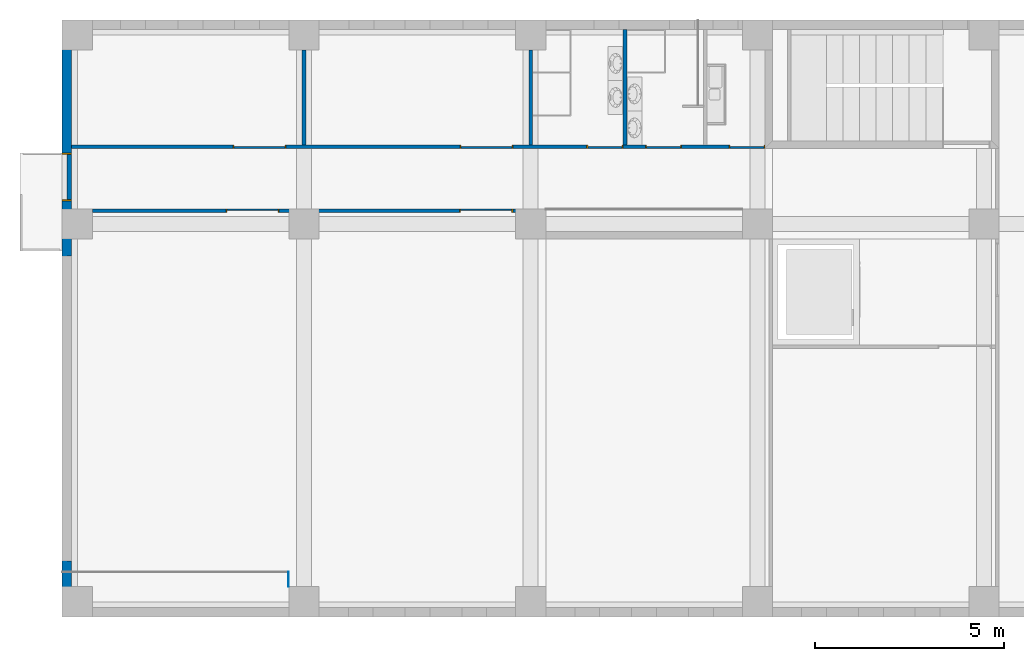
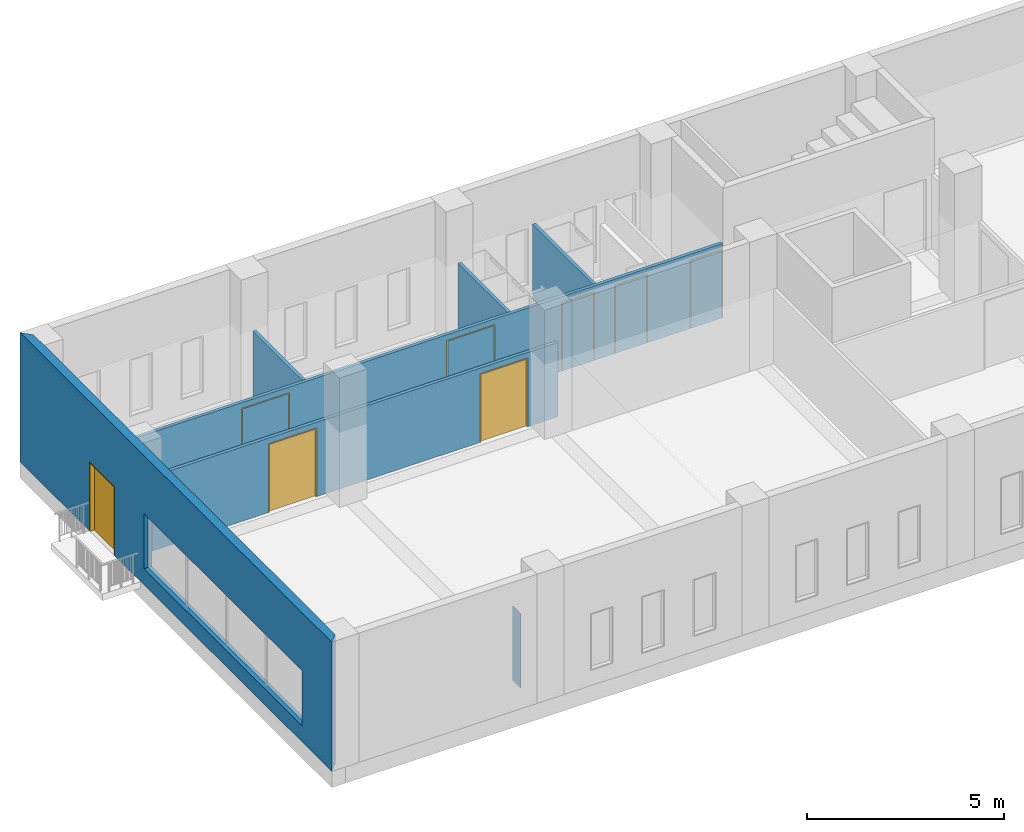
# One storey, part 2 of 14: 8 doors, 7 walls, 9 openings.
"""IFC2X3 building model written with IfcOpenShell, lengths in millimetres."""

from ifc_helpers import new_model, entity, si_unit, converted_unit, direction, frame, origin_with_axes, origin_2d_with_axis, place, context, project, spatial, polyline, rectangle, outline, extrude, open_shell, surface_model, material, layer, layer_set, layer_usage, type_object, element, fill, save


model = new_model("IFC2X3")

# Units and contexts
model_context = context("Model", 3, precision=1e-05, world=origin_with_axes(), true_north=direction((0.0, 1.0)))
ifc_project = project(units=[si_unit("LENGTHUNIT", "METRE", prefix="MILLI"), si_unit("AREAUNIT", "SQUARE_METRE"), si_unit("VOLUMEUNIT", "CUBIC_METRE"), converted_unit("PLANEANGLEUNIT", "DEGREE", entity("IfcPlaneAngleMeasure", 0.017453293), si_unit("PLANEANGLEUNIT", "RADIAN"), dimensions=[0, 0, 0, 0, 0, 0, 0]), si_unit("SOLIDANGLEUNIT", "STERADIAN"), si_unit("MASSUNIT", "GRAM"), si_unit("TIMEUNIT", "SECOND"), si_unit("THERMODYNAMICTEMPERATUREUNIT", "DEGREE_CELSIUS"), si_unit("LUMINOUSINTENSITYUNIT", "LUMEN")], contexts=[model_context])

# Site, building, storey
site_placement = place(None, origin_with_axes())
site = spatial("IfcSite", under=ifc_project, at=site_placement, Name="\x83T\x83C\x83g", CompositionType="ELEMENT")
building_placement = place(site_placement, origin_with_axes())
building = spatial("IfcBuilding", under=site, at=building_placement, Name="Daitec-Sample 201208", CompositionType="ELEMENT")
storey_placement = place(building_placement, frame((0.0, 0.0, 8000.0), z_axis=(0.0, 0.0, 1.0), x_axis=(1.0, 0.0, 0.0)))
storey = spatial("IfcBuildingStorey", under=building, at=storey_placement, Name="3F", CompositionType="ELEMENT", Elevation=8000.0)

# Wall, openings, door
ifc_material_1 = material(Name="\x83R\x83\x93\x83N\x83\x8a\x81[\x83g-\x8d\\\x91¢2")
ifc_layer_1 = layer(ifc_material_1, 250.0, ventilated="UNKNOWN")
ifc_layer_set_1 = layer_set([ifc_layer_1], Name="\x83R\x83\x93\x83N\x83\x8a\x81[\x83g-\x8d\\\x91¢2 250")
ifc_layer_usage_1 = layer_usage(ifc_layer_set_1, "AXIS2", "POSITIVE", 0.0)
wall_type_1 = type_object("IfcWallType", Name="\x83R\x83\x93\x83N\x83\x8a\x81[\x83g-\x8d\\\x91¢2 250", PredefinedType="NOTDEFINED")
wall_1_placement = place(storey_placement, frame((6100.0, 23800.0, 0.0), z_axis=(0.0, 0.0, 1.0), x_axis=(0.0, -1.0, 0.0)))
wall_1 = element("IfcWallStandardCase", 1, at=wall_1_placement, inside=storey, type_object=wall_type_1, material=ifc_layer_usage_1, Name="W9", context=model_context, shape_type="SweptSolid", body=[
    extrude(outline(polyline([(0.0, 0.0), (15800.0, 0.0), (15550.0, 250.0), (250.0, 250.0), (0.0, 0.0)])), origin_with_axes(), (0.0, 0.0, 1.0), 4000.0),
])
opening_1_placement = place(wall_1_placement, frame((10282.79, 0.0, 500.0), z_axis=(0.0, 0.0, 1.0), x_axis=(1.0, 0.0, 0.0)))
element("IfcOpeningElement", 2, at=opening_1_placement, cuts=wall_1, context=model_context, shape_type="SweptSolid", body=[
    extrude(rectangle(XDim=8000.0, YDim=1700.0, at=origin_2d_with_axis()), frame((0.0, 251.0, 850.0), z_axis=(0.0, -1.0, 0.0), x_axis=(1.0, 0.0, 0.0)), (0.0, 0.0, 1.0), 252.0),
    extrude(rectangle(XDim=8000.0, YDim=1700.0, at=origin_2d_with_axis()), frame((0.0, 249.0, 850.0), z_axis=(0.0, 1.0, 0.0), x_axis=(1.0, 0.0, 0.0)), (0.0, 0.0, 1.0), 252.0),
    extrude(rectangle(XDim=8060.0, YDim=1760.0, at=origin_2d_with_axis()), frame((0.0, 124.0, 850.0), z_axis=(0.0, 1.0, 0.0), x_axis=(1.0, 0.0, 0.0)), (0.0, 0.0, 1.0), 252.0),
])
opening_2_placement = place(wall_1_placement, frame((4155.9596, 0.0, 0.0), z_axis=(0.0, 0.0, 1.0), x_axis=(1.0, 0.0, 0.0)))
opening_2 = element("IfcOpeningElement", 3, at=opening_2_placement, cuts=wall_1, context=model_context, shape_type="SweptSolid", body=[
    extrude(rectangle(XDim=1260.0, YDim=2130.0, at=origin_2d_with_axis()), frame((0.0, 126.0, 1065.0), z_axis=(0.0, -1.0, 0.0), x_axis=(1.0, 0.0, 0.0)), (0.0, 0.0, 1.0), 252.0),
])
ifc_material_2 = material(Name="\x94w\x8ci")
door_style_1 = type_object("IfcDoorStyle", ConstructionType="NOTDEFINED", OperationType="NOTDEFINED", ParameterTakesPrecedence=False, Sizeable=False)
door_1_placement = place(opening_2_placement, frame((-600.0, 0.0, 0.0), z_axis=(0.0, 0.0, 1.0), x_axis=(1.0, 0.0, 0.0)))
door_1 = element("IfcDoor", 4, at=door_1_placement, inside=storey, type_object=door_style_1, material=ifc_material_2, Name="SD7", OverallHeight=2100.0, OverallWidth=1200.0, context=model_context, shape_type="SurfaceModel", body=[
    surface_model("IfcShellBasedSurfaceModel", [(1200.0, 125.0, 0.0), (1200.0, 125.0, 2100.0), (0.0, 125.0, 2100.0), (0.0, 125.0, 0.0)], [open_shell([[[0, 1, 2, 3]]])]),
    surface_model("IfcShellBasedSurfaceModel", [(1230.0, 0.0, 0.0), (1230.0, 0.0, 2130.0), (-30.0, 0.0, 2130.0), (-30.0, 0.0, 0.0), (0.0, 0.0, 0.0), (0.0, 0.0, 2100.0), (1200.0, 0.0, 2100.0), (1200.0, 0.0, 0.0)], [open_shell([[[0, 1, 2, 3, 4, 5, 6, 7]]])]),
    surface_model("IfcShellBasedSurfaceModel", [(1230.0, 250.0, 0.0), (1230.0, 250.0, 2130.0), (-30.0, 250.0, 2130.0), (-30.0, 250.0, 0.0), (0.0, 250.0, 0.0), (0.0, 250.0, 2100.0), (1200.0, 250.0, 2100.0), (1200.0, 250.0, 0.0)], [open_shell([[[0, 1, 2, 3, 4, 5, 6, 7]]])]),
    surface_model("IfcShellBasedSurfaceModel", [(1200.0, 0.0, 0.0), (1200.0, 0.0, 2100.0), (1200.0, 250.0, 2100.0), (1200.0, 250.0, 0.0), (0.0, 0.0, 2100.0), (0.0, 250.0, 2100.0), (1230.0, 0.0, 0.0), (1230.0, 250.0, 0.0), (0.0, 0.0, 0.0), (0.0, 250.0, 0.0), (1230.0, 0.0, 2130.0), (1230.0, 250.0, 2130.0), (-30.0, 0.0, 0.0), (-30.0, 250.0, 0.0), (-30.0, 0.0, 2130.0), (-30.0, 250.0, 2130.0)], [open_shell([[[0, 1, 2, 3]], [[1, 4, 5, 2]], [[6, 0, 3, 7]], [[4, 8, 9, 5]], [[10, 6, 7, 11]], [[8, 12, 13, 9]], [[14, 10, 11, 15]], [[12, 14, 15, 13]]])]),
])
fill(opening_2, door_1)

# Wall
ifc_material_3 = material(Name="\x83v\x83\x89\x83X\x83^\x81[\x83{\x81[\x83h")
ifc_layer_2 = layer(ifc_material_3, 15.0, ventilated="UNKNOWN")
ifc_material_4 = material(Name="00_LGS")
ifc_layer_3 = layer(ifc_material_4, 65.0, ventilated="UNKNOWN")
ifc_layer_4 = layer(ifc_material_3, 15.0, ventilated="UNKNOWN")
ifc_layer_set_2 = layer_set([ifc_layer_2, ifc_layer_3, ifc_layer_4])
ifc_layer_usage_2 = layer_usage(ifc_layer_set_2, "AXIS2", "NEGATIVE", 47.5)
wall_type_2 = type_object("IfcWallType", PredefinedType="NOTDEFINED")
wall_2_placement = place(storey_placement, frame((12500.0, 23000.0, 0.0), z_axis=(0.0, 0.0, 1.0), x_axis=(0.0, -1.0, 0.0)))
element("IfcWallStandardCase", 5, at=wall_2_placement, inside=storey, type_object=wall_type_2, material=ifc_layer_usage_2, Name="W5", context=model_context, shape_type="SweptSolid", body=[
    extrude(outline(polyline([(0.0, -47.5), (2504.8739, -47.5), (2504.8739, 47.5), (0.0, 47.5), (0.0, -47.5)])), origin_with_axes(), (0.0, 0.0, 1.0), 2300.0),
])

# Wall, openings, doors
ifc_layer_usage_3 = layer_usage(ifc_layer_set_2, "AXIS2", "NEGATIVE", 47.5)
wall_3_placement = place(storey_placement, frame((6100.0, 20447.626, 0.0), z_axis=(0.0, 0.0, 1.0), x_axis=(1.0, 0.0, 0.0)))
wall_3 = element("IfcWallStandardCase", 6, at=wall_3_placement, inside=storey, type_object=wall_type_2, material=ifc_layer_usage_3, Name="W3", context=model_context, shape_type="SweptSolid", body=[
    extrude(outline(polyline([(250.0, -47.5), (18600.0, -47.5), (18600.0, 47.5), (250.0, 47.5), (250.0, -47.5)])), origin_with_axes(), (0.0, 0.0, 1.0), 2300.0),
])
opening_3_placement = place(wall_3_placement, frame((15915.71, 0.0, 0.0), z_axis=(0.0, 0.0, 1.0), x_axis=(1.0, 0.0, 0.0)))
opening_3 = element("IfcOpeningElement", 7, at=opening_3_placement, cuts=wall_3, context=model_context, shape_type="SweptSolid", body=[
    extrude(rectangle(XDim=960.0, YDim=2130.0, at=origin_2d_with_axis()), frame((0.0, 96.0, 1065.0), z_axis=(0.0, -1.0, 0.0), x_axis=(1.0, 0.0, 0.0)), (0.0, 0.0, 1.0), 97.0),
])
opening_4_placement = place(wall_3_placement, frame((14362.327, 0.0, 0.0), z_axis=(0.0, 0.0, 1.0), x_axis=(1.0, 0.0, 0.0)))
opening_4 = element("IfcOpeningElement", 8, at=opening_4_placement, cuts=wall_3, context=model_context, shape_type="SweptSolid", body=[
    extrude(rectangle(XDim=960.0, YDim=2130.0, at=origin_2d_with_axis()), frame((0.0, 96.0, 1065.0), z_axis=(0.0, -1.0, 0.0), x_axis=(1.0, 0.0, 0.0)), (0.0, 0.0, 1.0), 97.0),
])
opening_5_placement = place(wall_3_placement, frame((18122.829, 0.0, 0.0), z_axis=(0.0, 0.0, 1.0), x_axis=(1.0, 0.0, 0.0)))
opening_5 = element("IfcOpeningElement", 9, at=opening_5_placement, cuts=wall_3, context=model_context, shape_type="SweptSolid", body=[
    extrude(rectangle(XDim=960.0, YDim=2130.0, at=origin_2d_with_axis()), frame((0.0, -1.0, 1065.0), z_axis=(0.0, 1.0, 0.0), x_axis=(1.0, 0.0, 0.0)), (0.0, 0.0, 1.0), 97.0),
])
opening_6_placement = place(wall_3_placement, frame((11228.514, 0.0, 0.0), z_axis=(0.0, 0.0, 1.0), x_axis=(1.0, 0.0, 0.0)))
opening_6 = element("IfcOpeningElement", 10, at=opening_6_placement, cuts=wall_3, context=model_context, shape_type="SweptSolid", body=[
    extrude(rectangle(XDim=1410.0, YDim=2130.0, at=origin_2d_with_axis()), frame((0.0, 96.0, 1065.0), z_axis=(0.0, -1.0, 0.0), x_axis=(1.0, 0.0, 0.0)), (0.0, 0.0, 1.0), 97.0),
])
opening_7_placement = place(wall_3_placement, frame((5224.6622, 0.0, 0.0), z_axis=(0.0, 0.0, 1.0), x_axis=(1.0, 0.0, 0.0)))
opening_7 = element("IfcOpeningElement", 11, at=opening_7_placement, cuts=wall_3, context=model_context, shape_type="SweptSolid", body=[
    extrude(rectangle(XDim=1410.0, YDim=2130.0, at=origin_2d_with_axis()), frame((0.0, 96.0, 1065.0), z_axis=(0.0, -1.0, 0.0), x_axis=(1.0, 0.0, 0.0)), (0.0, 0.0, 1.0), 97.0),
])
door_style_2 = type_object("IfcDoorStyle", Name="\x90e\x8eq\x8aJ\x82«\x8cË_JX5", ConstructionType="NOTDEFINED", OperationType="NOTDEFINED", ParameterTakesPrecedence=False, Sizeable=False)
door_2_placement = place(opening_6_placement, frame((675.0, 0.0, 0.0), z_axis=(0.0, 0.0, 1.0), x_axis=(-1.0, 0.0, 0.0)))
door_2 = element("IfcDoor", 12, at=door_2_placement, inside=storey, type_object=door_style_2, material=ifc_material_2, Name="SD5", OverallHeight=2100.0, OverallWidth=1350.0, context=model_context, shape_type="SurfaceModel", body=[
    surface_model("IfcShellBasedSurfaceModel", [(450.0, 0.0, 0.0), (1350.0, 0.0, 0.0), (1350.0, 0.0, 2100.0), (450.0, 0.0, 2100.0)], [open_shell([[[0, 1, 2, 3]]])]),
    surface_model("IfcShellBasedSurfaceModel", [(450.0, 0.0, 0.0), (450.0, 0.0, 2100.0), (0.0, 0.0, 2100.0), (0.0, 0.0, 0.0)], [open_shell([[[0, 1, 2, 3]]])]),
    surface_model("IfcShellBasedSurfaceModel", [(-30.0, -47.5, 0.0), (0.0, -47.5, 0.0), (0.0, -47.5, 2100.0), (1350.0, -47.5, 2100.0), (1350.0, -47.5, 0.0), (1380.0, -47.5, 0.0), (1380.0, -47.5, 2130.0), (-30.0, -47.5, 2130.0)], [open_shell([[[0, 1, 2, 3, 4, 5, 6, 7]]])]),
    surface_model("IfcShellBasedSurfaceModel", [(-30.0, 47.5, 0.0), (0.0, 47.5, 0.0), (0.0, 47.5, 2100.0), (1350.0, 47.5, 2100.0), (1350.0, 47.5, 0.0), (1380.0, 47.5, 0.0), (1380.0, 47.5, 2130.0), (-30.0, 47.5, 2130.0)], [open_shell([[[0, 1, 2, 3, 4, 5, 6, 7]]])]),
    surface_model("IfcShellBasedSurfaceModel", [(0.0, -47.5, 0.0), (0.0, 47.5, 0.0), (0.0, 47.5, 2100.0), (0.0, -47.5, 2100.0), (-30.0, -47.5, 0.0), (-30.0, 47.5, 0.0), (1350.0, 47.5, 2100.0), (1350.0, -47.5, 2100.0), (-30.0, -47.5, 2130.0), (-30.0, 47.5, 2130.0), (1350.0, 47.5, 0.0), (1350.0, -47.5, 0.0), (1380.0, -47.5, 2130.0), (1380.0, 47.5, 2130.0), (1380.0, 47.5, 0.0), (1380.0, -47.5, 0.0)], [open_shell([[[0, 1, 2, 3]], [[4, 5, 1, 0]], [[3, 2, 6, 7]], [[8, 9, 5, 4]], [[7, 6, 10, 11]], [[12, 13, 9, 8]], [[11, 10, 14, 15]], [[15, 14, 13, 12]]])]),
])
fill(opening_6, door_2)
door_3_placement = place(opening_7_placement, frame((675.0, 0.0, 0.0), z_axis=(0.0, 0.0, 1.0), x_axis=(-1.0, 0.0, 0.0)))
door_3 = element("IfcDoor", 13, at=door_3_placement, inside=storey, type_object=door_style_2, material=ifc_material_2, Name="SD6", OverallHeight=2100.0, OverallWidth=1350.0, context=model_context, shape_type="SurfaceModel", body=[
    surface_model("IfcShellBasedSurfaceModel", [(450.0, 0.0, 0.0), (1350.0, 0.0, 0.0), (1350.0, 0.0, 2100.0), (450.0, 0.0, 2100.0)], [open_shell([[[0, 1, 2, 3]]])]),
    surface_model("IfcShellBasedSurfaceModel", [(450.0, 0.0, 0.0), (450.0, 0.0, 2100.0), (0.0, 0.0, 2100.0), (0.0, 0.0, 0.0)], [open_shell([[[0, 1, 2, 3]]])]),
    surface_model("IfcShellBasedSurfaceModel", [(-30.0, -47.5, 0.0), (0.0, -47.5, 0.0), (0.0, -47.5, 2100.0), (1350.0, -47.5, 2100.0), (1350.0, -47.5, 0.0), (1380.0, -47.5, 0.0), (1380.0, -47.5, 2130.0), (-30.0, -47.5, 2130.0)], [open_shell([[[0, 1, 2, 3, 4, 5, 6, 7]]])]),
    surface_model("IfcShellBasedSurfaceModel", [(-30.0, 47.5, 0.0), (0.0, 47.5, 0.0), (0.0, 47.5, 2100.0), (1350.0, 47.5, 2100.0), (1350.0, 47.5, 0.0), (1380.0, 47.5, 0.0), (1380.0, 47.5, 2130.0), (-30.0, 47.5, 2130.0)], [open_shell([[[0, 1, 2, 3, 4, 5, 6, 7]]])]),
    surface_model("IfcShellBasedSurfaceModel", [(0.0, -47.5, 0.0), (0.0, 47.5, 0.0), (0.0, 47.5, 2100.0), (0.0, -47.5, 2100.0), (-30.0, -47.5, 0.0), (-30.0, 47.5, 0.0), (1350.0, 47.5, 2100.0), (1350.0, -47.5, 2100.0), (-30.0, -47.5, 2130.0), (-30.0, 47.5, 2130.0), (1350.0, 47.5, 0.0), (1350.0, -47.5, 0.0), (1380.0, -47.5, 2130.0), (1380.0, 47.5, 2130.0), (1380.0, 47.5, 0.0), (1380.0, -47.5, 0.0)], [open_shell([[[0, 1, 2, 3]], [[4, 5, 1, 0]], [[3, 2, 6, 7]], [[8, 9, 5, 4]], [[7, 6, 10, 11]], [[12, 13, 9, 8]], [[11, 10, 14, 15]], [[15, 14, 13, 12]]])]),
])
fill(opening_7, door_3)
door_style_3 = type_object("IfcDoorStyle", ConstructionType="NOTDEFINED", OperationType="NOTDEFINED", ParameterTakesPrecedence=False, Sizeable=False)
door_4_placement = place(opening_3_placement, frame((-450.0, 0.0, 0.0), z_axis=(0.0, 0.0, 1.0), x_axis=(1.0, 0.0, 0.0)))
door_4 = element("IfcDoor", 14, at=door_4_placement, inside=storey, type_object=door_style_3, material=ifc_material_2, Name="SD3", OverallHeight=2100.0, OverallWidth=900.0, context=model_context, shape_type="SurfaceModel", body=[
    surface_model("IfcShellBasedSurfaceModel", [(900.0, 0.0, 0.0), (0.0, 0.0, 0.0), (0.0, 0.0, 2100.0), (900.0, 0.0, 2100.0)], [open_shell([[[0, 1, 2, 3]]])]),
    surface_model("IfcShellBasedSurfaceModel", [(930.0, 47.5, 0.0), (900.0, 47.5, 0.0), (900.0, 47.5, 2100.0), (0.0, 47.5, 2100.0), (0.0, 47.5, 0.0), (-30.0, 47.5, 0.0), (-30.0, 47.5, 2130.0), (930.0, 47.5, 2130.0)], [open_shell([[[0, 1, 2, 3, 4, 5, 6, 7]]])]),
    surface_model("IfcShellBasedSurfaceModel", [(930.0, -47.5, 0.0), (900.0, -47.5, 0.0), (900.0, -47.5, 2100.0), (0.0, -47.5, 2100.0), (0.0, -47.5, 0.0), (-30.0, -47.5, 0.0), (-30.0, -47.5, 2130.0), (930.0, -47.5, 2130.0)], [open_shell([[[0, 1, 2, 3, 4, 5, 6, 7]]])]),
    surface_model("IfcShellBasedSurfaceModel", [(900.0, 47.5, 0.0), (900.0, -47.5, 0.0), (900.0, -47.5, 2100.0), (900.0, 47.5, 2100.0), (930.0, 47.5, 0.0), (930.0, -47.5, 0.0), (0.0, -47.5, 2100.0), (0.0, 47.5, 2100.0), (930.0, 47.5, 2130.0), (930.0, -47.5, 2130.0), (0.0, -47.5, 0.0), (0.0, 47.5, 0.0), (-30.0, 47.5, 2130.0), (-30.0, -47.5, 2130.0), (-30.0, -47.5, 0.0), (-30.0, 47.5, 0.0)], [open_shell([[[0, 1, 2, 3]], [[4, 5, 1, 0]], [[3, 2, 6, 7]], [[8, 9, 5, 4]], [[7, 6, 10, 11]], [[12, 13, 9, 8]], [[11, 10, 14, 15]], [[15, 14, 13, 12]]])]),
])
fill(opening_3, door_4)
door_5_placement = place(opening_4_placement, frame((450.0, 0.0, 0.0), z_axis=(0.0, 0.0, 1.0), x_axis=(-1.0, 0.0, 0.0)))
door_5 = element("IfcDoor", 15, at=door_5_placement, inside=storey, type_object=door_style_3, material=ifc_material_2, Name="SD4", OverallHeight=2100.0, OverallWidth=900.0, context=model_context, shape_type="SurfaceModel", body=[
    surface_model("IfcShellBasedSurfaceModel", [(0.0, 0.0, 0.0), (900.0, 0.0, 0.0), (900.0, 0.0, 2100.0), (0.0, 0.0, 2100.0)], [open_shell([[[0, 1, 2, 3]]])]),
    surface_model("IfcShellBasedSurfaceModel", [(-30.0, -47.5, 0.0), (0.0, -47.5, 0.0), (0.0, -47.5, 2100.0), (900.0, -47.5, 2100.0), (900.0, -47.5, 0.0), (930.0, -47.5, 0.0), (930.0, -47.5, 2130.0), (-30.0, -47.5, 2130.0)], [open_shell([[[0, 1, 2, 3, 4, 5, 6, 7]]])]),
    surface_model("IfcShellBasedSurfaceModel", [(-30.0, 47.5, 0.0), (0.0, 47.5, 0.0), (0.0, 47.5, 2100.0), (900.0, 47.5, 2100.0), (900.0, 47.5, 0.0), (930.0, 47.5, 0.0), (930.0, 47.5, 2130.0), (-30.0, 47.5, 2130.0)], [open_shell([[[0, 1, 2, 3, 4, 5, 6, 7]]])]),
    surface_model("IfcShellBasedSurfaceModel", [(0.0, -47.5, 0.0), (0.0, 47.5, 0.0), (0.0, 47.5, 2100.0), (0.0, -47.5, 2100.0), (-30.0, -47.5, 0.0), (-30.0, 47.5, 0.0), (900.0, 47.5, 2100.0), (900.0, -47.5, 2100.0), (-30.0, -47.5, 2130.0), (-30.0, 47.5, 2130.0), (900.0, 47.5, 0.0), (900.0, -47.5, 0.0), (930.0, -47.5, 2130.0), (930.0, 47.5, 2130.0), (930.0, 47.5, 0.0), (930.0, -47.5, 0.0)], [open_shell([[[0, 1, 2, 3]], [[4, 5, 1, 0]], [[3, 2, 6, 7]], [[8, 9, 5, 4]], [[7, 6, 10, 11]], [[12, 13, 9, 8]], [[11, 10, 14, 15]], [[15, 14, 13, 12]]])]),
])
fill(opening_4, door_5)
door_style_4 = type_object("IfcDoorStyle", ConstructionType="NOTDEFINED", OperationType="NOTDEFINED", ParameterTakesPrecedence=False, Sizeable=False)
door_6_placement = place(opening_5_placement, frame((450.0, 0.0, 0.0), z_axis=(0.0, 0.0, 1.0), x_axis=(-1.0, 0.0, 0.0)))
door_6 = element("IfcDoor", 16, at=door_6_placement, inside=storey, type_object=door_style_4, material=ifc_material_2, Name="SD9", OverallHeight=2100.0, OverallWidth=900.0, context=model_context, shape_type="SurfaceModel", body=[
    surface_model("IfcShellBasedSurfaceModel", [(930.0, -47.5, 0.0), (930.0, -47.5, 2130.0), (-30.0, -47.5, 2130.0), (-30.0, -47.5, 0.0), (0.0, -47.5, 0.0), (0.0, -47.5, 2100.0), (900.0, -47.5, 2100.0), (900.0, -47.5, 0.0)], [open_shell([[[0, 1, 2, 3, 4, 5, 6, 7]]])]),
    surface_model("IfcShellBasedSurfaceModel", [(930.0, 47.5, 0.0), (930.0, 47.5, 2130.0), (-30.0, 47.5, 2130.0), (-30.0, 47.5, 0.0), (0.0, 47.5, 0.0), (0.0, 47.5, 2100.0), (900.0, 47.5, 2100.0), (900.0, 47.5, 0.0)], [open_shell([[[0, 1, 2, 3, 4, 5, 6, 7]]])]),
    surface_model("IfcShellBasedSurfaceModel", [(900.0, -47.5, 0.0), (900.0, -47.5, 2100.0), (900.0, 47.5, 2100.0), (900.0, 47.5, 0.0), (0.0, -47.5, 2100.0), (0.0, 47.5, 2100.0), (930.0, -47.5, 0.0), (930.0, 47.5, 0.0), (0.0, -47.5, 0.0), (0.0, 47.5, 0.0), (930.0, -47.5, 2130.0), (930.0, 47.5, 2130.0), (-30.0, -47.5, 0.0), (-30.0, 47.5, 0.0), (-30.0, -47.5, 2130.0), (-30.0, 47.5, 2130.0)], [open_shell([[[0, 1, 2, 3]], [[1, 4, 5, 2]], [[6, 0, 3, 7]], [[4, 8, 9, 5]], [[10, 6, 7, 11]], [[8, 12, 13, 9]], [[14, 10, 11, 15]], [[12, 14, 15, 13]]])]),
])
fill(opening_5, door_6)

# Walls
ifc_layer_usage_4 = layer_usage(ifc_layer_set_2, "AXIS2", "POSITIVE", 0.0)
wall_4_placement = place(storey_placement, frame((18455.75, 23000.0, 0.0), z_axis=(0.0, 0.0, 1.0), x_axis=(0.0, -1.0, 0.0)))
element("IfcWallStandardCase", 17, at=wall_4_placement, inside=storey, type_object=wall_type_2, material=ifc_layer_usage_4, Name="W5", context=model_context, shape_type="SweptSolid", body=[
    extrude(outline(polyline([(0.0, 0.0), (2504.8739, 0.0), (2504.8739, 95.0), (0.0, 95.0), (0.0, 0.0)])), origin_with_axes(), (0.0, 0.0, 1.0), 2300.0),
])
ifc_layer_usage_5 = layer_usage(ifc_layer_set_2, "AXIS2", "NEGATIVE", 47.5)
wall_5_placement = place(storey_placement, frame((20997.571, 23800.0, 0.0), z_axis=(0.0, 0.0, 1.0), x_axis=(0.0, -1.0, 0.0)))
element("IfcWallStandardCase", 18, at=wall_5_placement, inside=storey, type_object=wall_type_2, material=ifc_layer_usage_5, Name="W6", context=model_context, shape_type="SweptSolid", body=[
    extrude(outline(polyline([(250.0, -47.5), (3304.8739, -47.5), (3304.8739, 47.5), (250.0, 47.5), (250.0, -47.5)])), origin_with_axes(), (0.0, 0.0, 1.0), 2300.0),
])

# Wall, openings, doors
ifc_layer_usage_6 = layer_usage(ifc_layer_set_2, "AXIS2", "NEGATIVE", 0.0)
wall_6_placement = place(storey_placement, frame((6900.0, 18800.0, 0.0), z_axis=(0.0, 0.0, 1.0), x_axis=(1.0, 0.0, 0.0)))
wall_6 = element("IfcWallStandardCase", 19, at=wall_6_placement, inside=storey, type_object=wall_type_2, material=ifc_layer_usage_6, Name="W0", context=model_context, shape_type="SweptSolid", body=[
    extrude(outline(polyline([(0.0, -95.0), (12000.0, -95.0), (12000.0, 0.0), (0.0, 0.0), (0.0, -95.0)])), origin_with_axes(), (0.0, 0.0, 1.0), 2300.0),
])
opening_8_placement = place(wall_6_placement, frame((4239.1936, 0.0, 0.0), z_axis=(0.0, 0.0, 1.0), x_axis=(1.0, 0.0, 0.0)))
opening_8 = element("IfcOpeningElement", 20, at=opening_8_placement, cuts=wall_6, context=model_context, shape_type="SweptSolid", body=[
    extrude(rectangle(XDim=1410.0, YDim=2130.0, at=origin_2d_with_axis()), frame((0.0, -46.5, 1065.0), z_axis=(0.0, -1.0, 0.0), x_axis=(1.0, 0.0, 0.0)), (0.0, 0.0, 1.0), 97.0),
])
opening_9_placement = place(wall_6_placement, frame((10422.805, 0.0, 0.0), z_axis=(0.0, 0.0, 1.0), x_axis=(1.0, 0.0, 0.0)))
opening_9 = element("IfcOpeningElement", 21, at=opening_9_placement, cuts=wall_6, context=model_context, shape_type="SweptSolid", body=[
    extrude(rectangle(XDim=1410.0, YDim=2130.0, at=origin_2d_with_axis()), frame((0.0, -46.5, 1065.0), z_axis=(0.0, -1.0, 0.0), x_axis=(1.0, 0.0, 0.0)), (0.0, 0.0, 1.0), 97.0),
])
door_7_placement = place(opening_8_placement, frame((-675.0, 0.0, 0.0), z_axis=(0.0, 0.0, 1.0), x_axis=(1.0, 0.0, 0.0)))
door_7 = element("IfcDoor", 22, at=door_7_placement, inside=storey, type_object=door_style_2, material=ifc_material_2, Name="SD4", OverallHeight=2100.0, OverallWidth=1350.0, context=model_context, shape_type="SurfaceModel", body=[
    surface_model("IfcShellBasedSurfaceModel", [(900.0, -47.5, 0.0), (900.0, -47.5, 2100.0), (0.0, -47.5, 2100.0), (0.0, -47.5, 0.0)], [open_shell([[[0, 1, 2, 3]]])]),
    surface_model("IfcShellBasedSurfaceModel", [(900.0, -47.5, 0.0), (1350.0, -47.5, 0.0), (1350.0, -47.5, 2100.0), (900.0, -47.5, 2100.0)], [open_shell([[[0, 1, 2, 3]]])]),
    surface_model("IfcShellBasedSurfaceModel", [(1380.0, -95.0, 0.0), (1380.0, -95.0, 2130.0), (-30.0, -95.0, 2130.0), (-30.0, -95.0, 0.0), (0.0, -95.0, 0.0), (0.0, -95.0, 2100.0), (1350.0, -95.0, 2100.0), (1350.0, -95.0, 0.0)], [open_shell([[[0, 1, 2, 3, 4, 5, 6, 7]]])]),
    surface_model("IfcShellBasedSurfaceModel", [(1380.0, 0.0, 0.0), (1380.0, 0.0, 2130.0), (-30.0, 0.0, 2130.0), (-30.0, 0.0, 0.0), (0.0, 0.0, 0.0), (0.0, 0.0, 2100.0), (1350.0, 0.0, 2100.0), (1350.0, 0.0, 0.0)], [open_shell([[[0, 1, 2, 3, 4, 5, 6, 7]]])]),
    surface_model("IfcShellBasedSurfaceModel", [(1350.0, -95.0, 0.0), (1350.0, -95.0, 2100.0), (1350.0, 0.0, 2100.0), (1350.0, 0.0, 0.0), (0.0, -95.0, 2100.0), (0.0, 0.0, 2100.0), (1380.0, -95.0, 0.0), (1380.0, 0.0, 0.0), (0.0, -95.0, 0.0), (0.0, 0.0, 0.0), (1380.0, -95.0, 2130.0), (1380.0, 0.0, 2130.0), (-30.0, -95.0, 0.0), (-30.0, 0.0, 0.0), (-30.0, -95.0, 2130.0), (-30.0, 0.0, 2130.0)], [open_shell([[[0, 1, 2, 3]], [[1, 4, 5, 2]], [[6, 0, 3, 7]], [[4, 8, 9, 5]], [[10, 6, 7, 11]], [[8, 12, 13, 9]], [[14, 10, 11, 15]], [[12, 14, 15, 13]]])]),
])
fill(opening_8, door_7)
door_8_placement = place(opening_9_placement, frame((-675.0, 0.0, 0.0), z_axis=(0.0, 0.0, 1.0), x_axis=(1.0, 0.0, 0.0)))
door_8 = element("IfcDoor", 23, at=door_8_placement, inside=storey, type_object=door_style_2, material=ifc_material_2, Name="SD5", OverallHeight=2100.0, OverallWidth=1350.0, context=model_context, shape_type="SurfaceModel", body=[
    surface_model("IfcShellBasedSurfaceModel", [(900.0, -47.5, 0.0), (900.0, -47.5, 2100.0), (0.0, -47.5, 2100.0), (0.0, -47.5, 0.0)], [open_shell([[[0, 1, 2, 3]]])]),
    surface_model("IfcShellBasedSurfaceModel", [(900.0, -47.5, 0.0), (1350.0, -47.5, 0.0), (1350.0, -47.5, 2100.0), (900.0, -47.5, 2100.0)], [open_shell([[[0, 1, 2, 3]]])]),
    surface_model("IfcShellBasedSurfaceModel", [(1380.0, -95.0, 0.0), (1380.0, -95.0, 2130.0), (-30.0, -95.0, 2130.0), (-30.0, -95.0, 0.0), (0.0, -95.0, 0.0), (0.0, -95.0, 2100.0), (1350.0, -95.0, 2100.0), (1350.0, -95.0, 0.0)], [open_shell([[[0, 1, 2, 3, 4, 5, 6, 7]]])]),
    surface_model("IfcShellBasedSurfaceModel", [(1380.0, 0.0, 0.0), (1380.0, 0.0, 2130.0), (-30.0, 0.0, 2130.0), (-30.0, 0.0, 0.0), (0.0, 0.0, 0.0), (0.0, 0.0, 2100.0), (1350.0, 0.0, 2100.0), (1350.0, 0.0, 0.0)], [open_shell([[[0, 1, 2, 3, 4, 5, 6, 7]]])]),
    surface_model("IfcShellBasedSurfaceModel", [(1350.0, -95.0, 0.0), (1350.0, -95.0, 2100.0), (1350.0, 0.0, 2100.0), (1350.0, 0.0, 0.0), (0.0, -95.0, 2100.0), (0.0, 0.0, 2100.0), (1380.0, -95.0, 0.0), (1380.0, 0.0, 0.0), (0.0, -95.0, 0.0), (0.0, 0.0, 0.0), (1380.0, -95.0, 2130.0), (1380.0, 0.0, 2130.0), (-30.0, -95.0, 0.0), (-30.0, 0.0, 0.0), (-30.0, -95.0, 2130.0), (-30.0, 0.0, 2130.0)], [open_shell([[[0, 1, 2, 3]], [[1, 4, 5, 2]], [[6, 0, 3, 7]], [[4, 8, 9, 5]], [[10, 6, 7, 11]], [[8, 12, 13, 9]], [[14, 10, 11, 15]], [[12, 14, 15, 13]]])]),
])
fill(opening_9, door_8)

# Wall
ifc_material_5 = material(Name="\x83R\x83\x93\x83N\x83\x8a\x81[\x83g-\x8cy\x97Ê")
ifc_layer_5 = layer(ifc_material_5, 20.0, ventilated="UNKNOWN")
ifc_layer_set_3 = layer_set([ifc_layer_5], Name="\x83R\x83\x93\x83N\x83\x8a\x81[\x83g-\x8cy\x97Ê 20")
ifc_layer_usage_7 = layer_usage(ifc_layer_set_3, "AXIS2", "NEGATIVE", 0.0)
wall_type_3 = type_object("IfcWallType", Name="\x83R\x83\x93\x83N\x83\x8a\x81[\x83g-\x8cy\x97Ê 20", PredefinedType="NOTDEFINED")
wall_7_placement = place(storey_placement, frame((12100.0, 9200.0, 0.0), z_axis=(0.0, 0.0, 1.0), x_axis=(0.0, -1.0, 0.0)))
element("IfcWallStandardCase", 24, at=wall_7_placement, inside=storey, type_object=wall_type_3, material=ifc_layer_usage_7, Name="W3", context=model_context, shape_type="SweptSolid", body=[
    extrude(outline(polyline([(0.0, -20.0), (400.0, -20.0), (400.0, 0.0), (0.0, 0.0), (0.0, -20.0)])), origin_with_axes(), (0.0, 0.0, 1.0), 2300.0),
])

save(model, "model.ifc")
